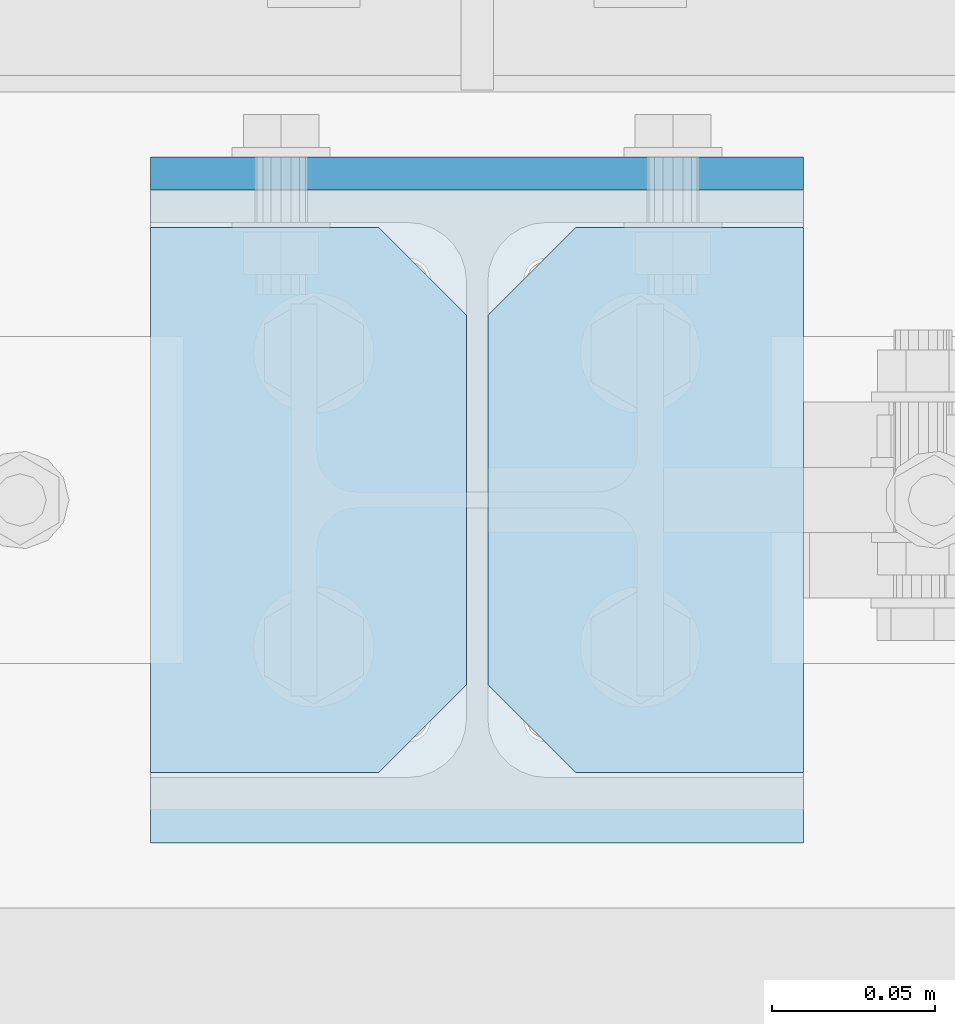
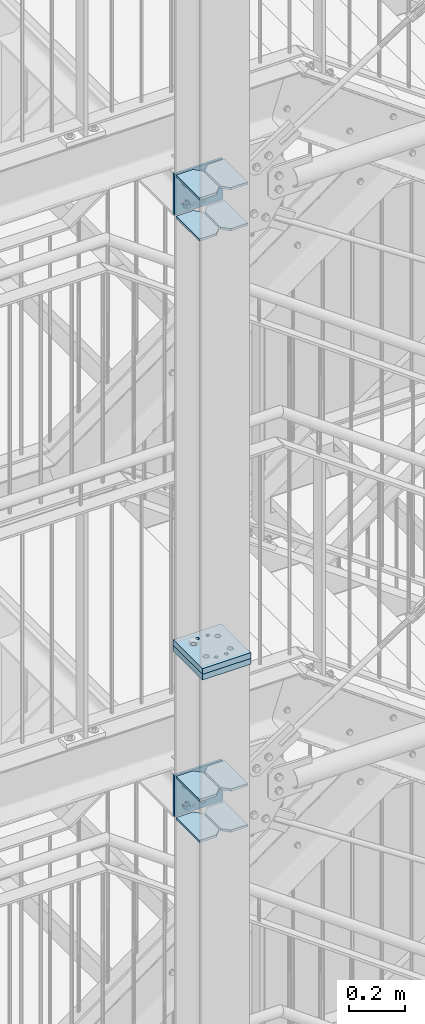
# One storey, part 155 of 831: 12 plates, 48 openings.
"""IFC2X3 building model written with IfcOpenShell, lengths in millimetres."""

import ifcopenshell
import ifcopenshell.guid

model = None  # the IFC model being written
_history = None  # IfcOwnerHistory: only IFC2X3 demands one
_inside = {}  # id of a spatial element -> (the spatial element, [elements in it])
_under = {}  # id of a project, library or spatial element -> (it, [spatial elements below it])
_declared = {}  # id of a project -> (the project, [libraries it declares])
_typed = {}  # id of a type object -> (the type object, [elements of that type])
_made_of = {}  # id of a material, layer set ... -> (it, [elements and type objects made of it])


def new_model(schema):
    """Start an empty IFC model of exactly this schema.

    Asked for "IFC4X3", IfcOpenShell would pick the latest addendum, in which some entities
    have other attributes; the version numbers below select the first issue.
    IFC2X3 requires an IfcOwnerHistory on every rooted entity: one is made here for all.
    """
    global model, _history
    if schema == "IFC4X3":
        model = ifcopenshell.file(schema_version=(4, 3, 0, 0))
    else:
        model = ifcopenshell.file(schema=schema)
    _inside.clear()
    _under.clear()
    _declared.clear()
    _typed.clear()
    _made_of.clear()
    _history = None
    if model.schema == "IFC2X3":
        org = make("IfcOrganization", Name="unknown")
        user = make(
            "IfcPersonAndOrganization",
            ThePerson=make("IfcPerson", FamilyName="unknown"),
            TheOrganization=org,
        )
        app = make(
            "IfcApplication",
            ApplicationDeveloper=org,
            Version="unknown",
            ApplicationFullName="unknown",
            ApplicationIdentifier="unknown",
        )
        _history = make(
            "IfcOwnerHistory",
            OwningUser=user,
            OwningApplication=app,
            ChangeAction="ADDED",
            CreationDate=0,
        )
    return model


def make(cls, **values):
    """One entity of the class cls with the attributes given. An attribute that is None is left unset."""
    return model.create_entity(
        cls, **{name: value for name, value in values.items() if value is not None}
    )


def entity(cls, *values):
    """Any entity or typed value of the class cls, its attributes in the order of the schema. None: left unset."""
    e = model.create_entity(cls)
    for i, value in enumerate(values):
        if value is not None:
            e[i] = value
    return e


def rooted(cls, **values):
    """An entity with a GlobalId (a new one), such as an element, a storey or a relation."""
    return make(cls, GlobalId=ifcopenshell.guid.new(), OwnerHistory=_history, **values)


def si_unit(unit_type, name, prefix=None):
    """IfcSIUnit, for example si_unit("LENGTHUNIT", "METRE", prefix="MILLI")."""
    return make("IfcSIUnit", UnitType=unit_type, Prefix=prefix, Name=name)


def converted_unit(unit_type, name, factor, base, dimensions=None, offset=None):
    """IfcConversionBasedUnit, such as the inch: factor (a typed value) times the base unit."""
    return make(
        "IfcConversionBasedUnit"
        if offset is None
        else "IfcConversionBasedUnitWithOffset",
        ConversionOffset=offset,
        Dimensions=None
        if dimensions is None
        else entity("IfcDimensionalExponents", *dimensions),
        UnitType=unit_type,
        Name=name,
        ConversionFactor=make(
            "IfcMeasureWithUnit", ValueComponent=factor, UnitComponent=base
        ),
    )


def assignment(units):
    """IfcUnitAssignment: the units of a project."""
    return None if units is None else make("IfcUnitAssignment", Units=units)


def point(xyz):
    """IfcCartesianPoint."""
    return None if xyz is None else make("IfcCartesianPoint", Coordinates=xyz)


def direction(xyz):
    """IfcDirection."""
    return None if xyz is None else make("IfcDirection", DirectionRatios=xyz)


def frame(location, z_axis=None, x_axis=None):
    """IfcAxis2Placement3D, a coordinate frame: its origin and axes. An axis left out is left unset."""
    return make(
        "IfcAxis2Placement3D",
        Location=point(location),
        Axis=direction(z_axis),
        RefDirection=direction(x_axis),
    )


def frame_2d(location, x_axis=None):
    """IfcAxis2Placement2D, a coordinate frame in the plane: its origin and x axis."""
    return make(
        "IfcAxis2Placement2D", Location=point(location), RefDirection=direction(x_axis)
    )


def origin():
    """The frame at (0, 0, 0) with its axes left unset."""
    return frame((0.0, 0.0, 0.0))


def origin_with_axes():
    """The frame at (0, 0, 0) with the z axis (0, 0, 1) and the x axis (1, 0, 0) written out."""
    return frame((0.0, 0.0, 0.0), z_axis=(0.0, 0.0, 1.0), x_axis=(1.0, 0.0, 0.0))


def origin_2d_with_axis():
    """The frame at (0, 0) in the plane with the x axis (1, 0) written out."""
    return frame_2d((0.0, 0.0), x_axis=(1.0, 0.0))


def place(relative_to, where):
    """IfcLocalPlacement: puts the frame where relative to a parent placement (None: the world)."""
    return make(
        "IfcLocalPlacement", PlacementRelTo=relative_to, RelativePlacement=where
    )


def context(
    kind, dimensions, precision=None, world=None, true_north=None, identifier=None
):
    """IfcGeometricRepresentationContext, for example the 3D "Model" context."""
    return make(
        "IfcGeometricRepresentationContext",
        ContextIdentifier=identifier,
        ContextType=kind,
        CoordinateSpaceDimension=dimensions,
        Precision=precision,
        WorldCoordinateSystem=world,
        TrueNorth=true_north,
    )


def project(units=None, contexts=None):
    """IfcProject with its units and contexts."""
    return rooted(
        "IfcProject",
        Name="project",
        RepresentationContexts=contexts,
        UnitsInContext=assignment(units),
    )


def spatial(cls, under=None, at=None, **own):
    """A site, building, storey or space (cls), placed at a placement, below another one or the project."""
    s = rooted(cls, ObjectPlacement=at, **own)
    if under is not None:
        _under.setdefault(under.id(), (under, []))[1].append(s)
    return s


def polyline(points):
    """IfcPolyline through the points."""
    return make("IfcPolyline", Points=[point(p) for p in points])


def profile(cls, at=None, kind="AREA", **sizes):
    """A parametric profile (cls). Its sizes go by their IFC names, for example OverallWidth=200.0."""
    return make(cls, ProfileType=kind, Position=at, **sizes)


def circle(**sizes):
    """IfcCircleProfileDef."""
    return profile("IfcCircleProfileDef", **sizes)


def outline(outer, holes=None, kind="AREA"):
    """IfcArbitraryClosedProfileDef: a profile drawn as a closed curve; with holes, ...WithVoids."""
    if holes is None:
        return make("IfcArbitraryClosedProfileDef", ProfileType=kind, OuterCurve=outer)
    return make(
        "IfcArbitraryProfileDefWithVoids",
        ProfileType=kind,
        OuterCurve=outer,
        InnerCurves=holes,
    )


def extrude(swept, where, along, depth):
    """IfcExtrudedAreaSolid: the profile swept, set in the frame where, extruded along a direction by depth."""
    return make(
        "IfcExtrudedAreaSolid",
        SweptArea=swept,
        Position=where,
        ExtrudedDirection=direction(along),
        Depth=depth,
    )


def shape(context_of_items, identifier, shape_type, items):
    """IfcShapeRepresentation: the items that make up one representation, for example the "Body"."""
    return make(
        "IfcShapeRepresentation",
        ContextOfItems=context_of_items,
        RepresentationIdentifier=identifier,
        RepresentationType=shape_type,
        Items=items,
    )


def material(Name=None, Category=None):
    """IfcMaterial."""
    return make("IfcMaterial", Name=Name, Category=Category)


def layer(
    of_material, thickness, ventilated=None, Name=None, Category=None, Priority=None
):
    """IfcMaterialLayer: one layer of a wall or slab, of a material (None: an air gap)."""
    return make(
        "IfcMaterialLayer",
        Material=of_material,
        LayerThickness=thickness,
        IsVentilated=ventilated,
        Name=Name,
        Category=Category,
        Priority=Priority,
    )


def layer_set(layers, Name=None):
    """IfcMaterialLayerSet."""
    return make("IfcMaterialLayerSet", MaterialLayers=layers, LayerSetName=Name)


def made_of(thing, what):
    """Note that an element or type object is made of a material, layer set ...; save() writes the relation."""
    if what is not None:
        _made_of.setdefault(what.id(), (what, []))[1].append(thing)
    return thing


def element(
    cls,
    number,
    at=None,
    inside=None,
    cuts=None,
    type_object=None,
    material=None,
    context=None,
    identifier="Body",
    shape_type=None,
    held_by="IfcProductDefinitionShape",
    body=None,
    shapes=None,
    **own,
):
    """One element of the class cls, such as IfcWall. Its Tag is "e" and its number.

    at: its placement. inside: the storey or other place that contains it. cuts: it is an
    opening in that element (IfcRelVoidsElement). A single representation is given by context,
    identifier, shape_type and body (its items); several are given by shapes. held_by: the class
    of the entity that holds the representations. save() writes the other relations.
    """
    e = rooted(cls, Tag="e%d" % number, ObjectPlacement=at, **own)
    if body is not None:
        shapes = [shape(context, identifier, shape_type, body)]
    if shapes is not None:
        e.Representation = make(held_by, Representations=shapes)
    if inside is not None:
        _inside.setdefault(inside.id(), (inside, []))[1].append(e)
    if cuts is not None:
        rooted(
            "IfcRelVoidsElement", RelatingBuildingElement=cuts, RelatedOpeningElement=e
        )
    if type_object is not None:
        _typed.setdefault(type_object.id(), (type_object, []))[1].append(e)
    return made_of(e, material)


def aggregate(whole, parts):
    """IfcRelAggregates: a whole, such as a stair, and the parts it consists of."""
    return rooted("IfcRelAggregates", RelatingObject=whole, RelatedObjects=parts)


def save(model, path):
    """Write the relations noted so far, then the file.

    IfcRelAggregates (storeys below a building ...), IfcRelContainedInSpatialStructure (elements
    in a storey), IfcRelDefinesByType, IfcRelAssociatesMaterial and IfcRelDeclares: one each for
    every whole, place, type object, material and project.
    """
    for whole, parts in _under.values():
        aggregate(whole, parts)
    for where, things in _inside.values():
        rooted(
            "IfcRelContainedInSpatialStructure",
            RelatedElements=things,
            RelatingStructure=where,
        )
    for kind, things in _typed.values():
        rooted("IfcRelDefinesByType", RelatedObjects=things, RelatingType=kind)
    for what, things in _made_of.values():
        rooted("IfcRelAssociatesMaterial", RelatedObjects=things, RelatingMaterial=what)
    for by, libraries in _declared.values():
        rooted("IfcRelDeclares", RelatingContext=by, RelatedDefinitions=libraries)
    model.write(path)


model = new_model("IFC2X3")

# Units and contexts
model_context = context("Model", 3, precision=1e-09, world=origin_with_axes())
ifc_project = project(units=[si_unit("LENGTHUNIT", "METRE", prefix="MILLI"), si_unit("AREAUNIT", "SQUARE_METRE"), si_unit("VOLUMEUNIT", "CUBIC_METRE"), converted_unit("PLANEANGLEUNIT", "DEGREE", entity("IfcPlaneAngleMeasure", 0.01745329), si_unit("PLANEANGLEUNIT", "RADIAN"), dimensions=[0, 0, 0, 0, 0, 0, 0])], contexts=[model_context])

# Site, building, storey
site_placement = place(None, origin_with_axes())
site = spatial("IfcSite", under=ifc_project, at=site_placement, Name="Site", CompositionType="ELEMENT")
building_placement = place(site_placement, origin_with_axes())
building = spatial("IfcBuilding", under=site, at=building_placement, Name="Struktur 1", CompositionType="ELEMENT")
storey_placement = place(building_placement, origin_with_axes())
storey = spatial("IfcBuildingStorey", under=building, at=storey_placement, Name="Default Storey", CompositionType="ELEMENT", Elevation=0.0)

# Plate, openings
ifc_material = material(Name="S235JR")
ifc_layer_1 = layer(ifc_material, 10.0)
ifc_layer_set_1 = layer_set([ifc_layer_1], Name="S235JR")
plate_1_placement = place(None, frame((4856.713402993, 4471.736971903, 12244.0), z_axis=(0.0, -1.0, 0.0), x_axis=(0.0, 0.0, -1.0)))
plate_1 = element("IfcPlate", 1, at=plate_1_placement, inside=storey, material=ifc_layer_set_1, Name="Endplate", ObjectType="Endplate", context=model_context, shape_type="SweptSolid", body=[
    extrude(outline(polyline([(-90.0, -100.0), (90.0, -100.0), (90.0, 100.0), (-90.0, 100.0), (-90.0, -100.0)])), origin_with_axes(), (0.0, 0.0, 1.0), 10.0),
])
opening_1_placement = place(plate_1_placement, frame((-67.0, -21.25, 10.5), z_axis=(0.0, 0.0, -1.0), x_axis=(1.0, 0.0, 0.0)))
element("IfcOpeningElement", 2, at=opening_1_placement, cuts=plate_1, ObjectType="Opening", context=model_context, shape_type="SweptSolid", body=[
    extrude(circle(Radius=6.001, at=origin_2d_with_axis()), origin(), (0.0, 0.0, 1.0), 11.0),
])
opening_2_placement = place(plate_1_placement, frame((67.0, -21.25, 10.5), z_axis=(0.0, 0.0, -1.0), x_axis=(1.0, 0.0, 0.0)))
element("IfcOpeningElement", 3, at=opening_2_placement, cuts=plate_1, ObjectType="Opening", context=model_context, shape_type="SweptSolid", body=[
    extrude(circle(Radius=6.001, at=origin_2d_with_axis()), origin(), (0.0, 0.0, 1.0), 11.0),
])
opening_3_placement = place(plate_1_placement, frame((67.0, 21.25, 10.5), z_axis=(0.0, 0.0, -1.0), x_axis=(1.0, 0.0, 0.0)))
element("IfcOpeningElement", 4, at=opening_3_placement, cuts=plate_1, ObjectType="Opening", context=model_context, shape_type="SweptSolid", body=[
    extrude(circle(Radius=6.001, at=origin_2d_with_axis()), origin(), (0.0, 0.0, 1.0), 11.0),
])
opening_4_placement = place(plate_1_placement, frame((-67.0, 21.25, 10.5), z_axis=(0.0, 0.0, -1.0), x_axis=(1.0, 0.0, 0.0)))
element("IfcOpeningElement", 5, at=opening_4_placement, cuts=plate_1, ObjectType="Opening", context=model_context, shape_type="SweptSolid", body=[
    extrude(circle(Radius=6.001, at=origin_2d_with_axis()), origin(), (0.0, 0.0, 1.0), 11.0),
])
opening_5_placement = place(plate_1_placement, frame((-45.0, -60.0, 10.5), z_axis=(0.0, 0.0, -1.0), x_axis=(0.0, -1.0, 0.0)))
element("IfcOpeningElement", 6, at=opening_5_placement, cuts=plate_1, ObjectType="Opening", context=model_context, shape_type="SweptSolid", body=[
    extrude(circle(Radius=9.001, at=origin_2d_with_axis()), origin(), (0.0, 0.0, 1.0), 11.0),
])
opening_6_placement = place(plate_1_placement, frame((-45.0, 60.0, 10.5), z_axis=(0.0, 0.0, -1.0), x_axis=(0.0, 1.0, 0.0)))
element("IfcOpeningElement", 7, at=opening_6_placement, cuts=plate_1, ObjectType="Opening", context=model_context, shape_type="SweptSolid", body=[
    extrude(circle(Radius=9.001, at=origin_2d_with_axis()), origin(), (0.0, 0.0, 1.0), 11.0),
])
opening_7_placement = place(plate_1_placement, frame((45.0, 60.0, 10.5), z_axis=(0.0, 0.0, -1.0), x_axis=(0.0, 1.0, 0.0)))
element("IfcOpeningElement", 8, at=opening_7_placement, cuts=plate_1, ObjectType="Opening", context=model_context, shape_type="SweptSolid", body=[
    extrude(circle(Radius=9.001, at=origin_2d_with_axis()), origin(), (0.0, 0.0, 1.0), 11.0),
])
opening_8_placement = place(plate_1_placement, frame((45.0, -60.0, 10.5), z_axis=(0.0, 0.0, -1.0), x_axis=(0.0, -1.0, 0.0)))
element("IfcOpeningElement", 9, at=opening_8_placement, cuts=plate_1, ObjectType="Opening", context=model_context, shape_type="SweptSolid", body=[
    extrude(circle(Radius=9.001, at=origin_2d_with_axis()), origin(), (0.0, 0.0, 1.0), 11.0),
])

plate_2_placement = place(None, frame((4956.713402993, 4450.236971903, 12329.0), z_axis=(0.0, 0.0, 1.0), x_axis=(-1.0, 0.0, 0.0)))
plate_2 = element("IfcPlate", 10, at=plate_2_placement, inside=storey, material=ifc_layer_set_1, Name="Stiffener#1", ObjectType="Stiffener#1", context=model_context, shape_type="SweptSolid", body=[
    extrude(outline(polyline([(0.0, 0.0), (96.75, 0.0), (96.75, 167.0), (0.0, 167.0), (0.0, 0.0)])), origin_with_axes(), (0.0, 0.0, 1.0), 10.0),
])
opening_9_placement = place(plate_2_placement, frame((0.0, 0.0, -0.01), z_axis=(0.0, 0.0, 1.0), x_axis=(1.0, 0.0, 0.0)))
element("IfcOpeningElement", 11, at=opening_9_placement, cuts=plate_2, ObjectType="Opening", context=model_context, shape_type="SweptSolid", body=[
    extrude(outline(polyline([(96.75, 167.0), (69.75, 167.0), (96.75, 140.0), (96.75, 167.0)])), origin(), (0.0, 0.0, 1.0), 10.02),
])
opening_10_placement = place(plate_2_placement, frame((0.0, 0.0, -0.01), z_axis=(0.0, 0.0, 1.0), x_axis=(1.0, 0.0, 0.0)))
element("IfcOpeningElement", 12, at=opening_10_placement, cuts=plate_2, ObjectType="Opening", context=model_context, shape_type="SweptSolid", body=[
    extrude(outline(polyline([(96.75, 0.0), (96.75, 27.0), (69.75, 0.0), (96.75, 0.0)])), origin(), (0.0, 0.0, 1.0), 10.02),
])

plate_3_placement = place(None, frame((4853.463402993, 4450.236971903, 12329.0), z_axis=(0.0, 0.0, 1.0), x_axis=(-1.0, 0.0, 0.0)))
plate_3 = element("IfcPlate", 13, at=plate_3_placement, inside=storey, material=ifc_layer_set_1, Name="Stiffener#2", ObjectType="Stiffener#2", context=model_context, shape_type="SweptSolid", body=[
    extrude(outline(polyline([(0.0, 0.0), (96.75, 0.0), (96.75, 167.0), (0.0, 167.0), (0.0, 0.0)])), origin_with_axes(), (0.0, 0.0, 1.0), 10.0),
])
opening_11_placement = place(plate_3_placement, frame((0.0, 0.0, -0.01), z_axis=(0.0, 0.0, 1.0), x_axis=(1.0, 0.0, 0.0)))
element("IfcOpeningElement", 14, at=opening_11_placement, cuts=plate_3, ObjectType="Opening", context=model_context, shape_type="SweptSolid", body=[
    extrude(outline(polyline([(0.0, 167.0), (0.0, 140.0), (27.0, 167.0), (0.0, 167.0)])), origin(), (0.0, 0.0, 1.0), 10.02),
])
opening_12_placement = place(plate_3_placement, frame((0.0, 0.0, -0.01), z_axis=(0.0, 0.0, 1.0), x_axis=(1.0, 0.0, 0.0)))
element("IfcOpeningElement", 15, at=opening_12_placement, cuts=plate_3, ObjectType="Opening", context=model_context, shape_type="SweptSolid", body=[
    extrude(outline(polyline([(0.0, 0.0), (27.0, 0.0), (0.0, 27.0), (0.0, 0.0)])), origin(), (0.0, 0.0, 1.0), 10.02),
])

plate_4_placement = place(None, frame((4859.963402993, 4450.236971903, 12159.0), z_axis=(0.0, 0.0, -1.0), x_axis=(1.0, 0.0, 0.0)))
plate_4 = element("IfcPlate", 16, at=plate_4_placement, inside=storey, material=ifc_layer_set_1, Name="Stiffener#3", ObjectType="Stiffener#3", context=model_context, shape_type="SweptSolid", body=[
    extrude(outline(polyline([(0.0, 0.0), (96.75, 0.0), (96.75, 167.0), (0.0, 167.0), (0.0, 0.0)])), origin_with_axes(), (0.0, 0.0, 1.0), 10.0),
])
opening_13_placement = place(plate_4_placement, frame((0.0, 0.0, -0.01), z_axis=(0.0, 0.0, 1.0), x_axis=(1.0, 0.0, 0.0)))
element("IfcOpeningElement", 17, at=opening_13_placement, cuts=plate_4, ObjectType="Opening", context=model_context, shape_type="SweptSolid", body=[
    extrude(outline(polyline([(0.0, 167.0), (0.0, 140.0), (27.0, 167.0), (0.0, 167.0)])), origin(), (0.0, 0.0, 1.0), 10.02),
])
opening_14_placement = place(plate_4_placement, frame((0.0, 0.0, -0.01), z_axis=(0.0, 0.0, 1.0), x_axis=(1.0, 0.0, 0.0)))
element("IfcOpeningElement", 18, at=opening_14_placement, cuts=plate_4, ObjectType="Opening", context=model_context, shape_type="SweptSolid", body=[
    extrude(outline(polyline([(0.0, 0.0), (27.0, 0.0), (0.0, 27.0), (0.0, 0.0)])), origin(), (0.0, 0.0, 1.0), 10.02),
])

plate_5_placement = place(None, frame((4756.713402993, 4450.236971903, 12159.0), z_axis=(0.0, 0.0, -1.0), x_axis=(1.0, 0.0, 0.0)))
plate_5 = element("IfcPlate", 19, at=plate_5_placement, inside=storey, material=ifc_layer_set_1, Name="Stiffener#4", ObjectType="Stiffener#4", context=model_context, shape_type="SweptSolid", body=[
    extrude(outline(polyline([(0.0, 0.0), (96.75, 0.0), (96.75, 167.0), (0.0, 167.0), (0.0, 0.0)])), origin_with_axes(), (0.0, 0.0, 1.0), 10.0),
])
opening_15_placement = place(plate_5_placement, frame((0.0, 0.0, -0.01), z_axis=(0.0, 0.0, 1.0), x_axis=(1.0, 0.0, 0.0)))
element("IfcOpeningElement", 20, at=opening_15_placement, cuts=plate_5, ObjectType="Opening", context=model_context, shape_type="SweptSolid", body=[
    extrude(outline(polyline([(96.75, 167.0), (69.75, 167.0), (96.75, 140.0), (96.75, 167.0)])), origin(), (0.0, 0.0, 1.0), 10.02),
])
opening_16_placement = place(plate_5_placement, frame((0.0, 0.0, -0.01), z_axis=(0.0, 0.0, 1.0), x_axis=(1.0, 0.0, 0.0)))
element("IfcOpeningElement", 21, at=opening_16_placement, cuts=plate_5, ObjectType="Opening", context=model_context, shape_type="SweptSolid", body=[
    extrude(outline(polyline([(96.75, 0.0), (96.75, 27.0), (69.75, 0.0), (96.75, 0.0)])), origin(), (0.0, 0.0, 1.0), 10.02),
])

plate_6_placement = place(None, frame((4856.713402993, 4471.736971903, 14879.0), z_axis=(0.0, -1.0, 0.0), x_axis=(0.0, 0.0, -1.0)))
plate_6 = element("IfcPlate", 22, at=plate_6_placement, inside=storey, material=ifc_layer_set_1, Name="Endplate", ObjectType="Endplate", context=model_context, shape_type="SweptSolid", body=[
    extrude(outline(polyline([(-90.0, -100.0), (90.0, -100.0), (90.0, 100.0), (-90.0, 100.0), (-90.0, -100.0)])), origin_with_axes(), (0.0, 0.0, 1.0), 10.0),
])
opening_17_placement = place(plate_6_placement, frame((-67.0, -21.25, 10.5), z_axis=(0.0, 0.0, -1.0), x_axis=(1.0, 0.0, 0.0)))
element("IfcOpeningElement", 23, at=opening_17_placement, cuts=plate_6, ObjectType="Opening", context=model_context, shape_type="SweptSolid", body=[
    extrude(circle(Radius=6.001, at=origin_2d_with_axis()), origin(), (0.0, 0.0, 1.0), 11.0),
])
opening_18_placement = place(plate_6_placement, frame((67.0, -21.25, 10.5), z_axis=(0.0, 0.0, -1.0), x_axis=(1.0, 0.0, 0.0)))
element("IfcOpeningElement", 24, at=opening_18_placement, cuts=plate_6, ObjectType="Opening", context=model_context, shape_type="SweptSolid", body=[
    extrude(circle(Radius=6.001, at=origin_2d_with_axis()), origin(), (0.0, 0.0, 1.0), 11.0),
])
opening_19_placement = place(plate_6_placement, frame((67.0, 21.25, 10.5), z_axis=(0.0, 0.0, -1.0), x_axis=(1.0, 0.0, 0.0)))
element("IfcOpeningElement", 25, at=opening_19_placement, cuts=plate_6, ObjectType="Opening", context=model_context, shape_type="SweptSolid", body=[
    extrude(circle(Radius=6.001, at=origin_2d_with_axis()), origin(), (0.0, 0.0, 1.0), 11.0),
])
opening_20_placement = place(plate_6_placement, frame((-67.0, 21.25, 10.5), z_axis=(0.0, 0.0, -1.0), x_axis=(1.0, 0.0, 0.0)))
element("IfcOpeningElement", 26, at=opening_20_placement, cuts=plate_6, ObjectType="Opening", context=model_context, shape_type="SweptSolid", body=[
    extrude(circle(Radius=6.001, at=origin_2d_with_axis()), origin(), (0.0, 0.0, 1.0), 11.0),
])
opening_21_placement = place(plate_6_placement, frame((-45.0, 60.0, 10.5), z_axis=(0.0, 0.0, -1.0), x_axis=(0.0, 1.0, 0.0)))
element("IfcOpeningElement", 27, at=opening_21_placement, cuts=plate_6, ObjectType="Opening", context=model_context, shape_type="SweptSolid", body=[
    extrude(circle(Radius=9.001, at=origin_2d_with_axis()), origin(), (0.0, 0.0, 1.0), 11.0),
])
opening_22_placement = place(plate_6_placement, frame((45.0, -60.0, 10.5), z_axis=(0.0, 0.0, -1.0), x_axis=(0.0, -1.0, 0.0)))
element("IfcOpeningElement", 28, at=opening_22_placement, cuts=plate_6, ObjectType="Opening", context=model_context, shape_type="SweptSolid", body=[
    extrude(circle(Radius=9.001, at=origin_2d_with_axis()), origin(), (0.0, 0.0, 1.0), 11.0),
])
opening_23_placement = place(plate_6_placement, frame((-45.0, -60.0, 10.5), z_axis=(0.0, 0.0, -1.0), x_axis=(0.0, -1.0, 0.0)))
element("IfcOpeningElement", 29, at=opening_23_placement, cuts=plate_6, ObjectType="Opening", context=model_context, shape_type="SweptSolid", body=[
    extrude(circle(Radius=9.001, at=origin_2d_with_axis()), origin(), (0.0, 0.0, 1.0), 11.0),
])
opening_24_placement = place(plate_6_placement, frame((45.0, 60.0, 10.5), z_axis=(0.0, 0.0, -1.0), x_axis=(0.0, 1.0, 0.0)))
element("IfcOpeningElement", 30, at=opening_24_placement, cuts=plate_6, ObjectType="Opening", context=model_context, shape_type="SweptSolid", body=[
    extrude(circle(Radius=9.001, at=origin_2d_with_axis()), origin(), (0.0, 0.0, 1.0), 11.0),
])

plate_7_placement = place(None, frame((4956.713402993, 4450.236971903, 14964.0), z_axis=(0.0, 0.0, 1.0), x_axis=(-1.0, 0.0, 0.0)))
plate_7 = element("IfcPlate", 31, at=plate_7_placement, inside=storey, material=ifc_layer_set_1, Name="Stiffener#1", ObjectType="Stiffener#1", context=model_context, shape_type="SweptSolid", body=[
    extrude(outline(polyline([(0.0, 0.0), (96.75, 0.0), (96.75, 167.0), (0.0, 167.0), (0.0, 0.0)])), origin_with_axes(), (0.0, 0.0, 1.0), 10.0),
])
opening_25_placement = place(plate_7_placement, frame((0.0, 0.0, -0.01), z_axis=(0.0, 0.0, 1.0), x_axis=(1.0, 0.0, 0.0)))
element("IfcOpeningElement", 32, at=opening_25_placement, cuts=plate_7, ObjectType="Opening", context=model_context, shape_type="SweptSolid", body=[
    extrude(outline(polyline([(96.75, 167.0), (69.75, 167.0), (96.75, 140.0), (96.75, 167.0)])), origin(), (0.0, 0.0, 1.0), 10.02),
])
opening_26_placement = place(plate_7_placement, frame((0.0, 0.0, -0.01), z_axis=(0.0, 0.0, 1.0), x_axis=(1.0, 0.0, 0.0)))
element("IfcOpeningElement", 33, at=opening_26_placement, cuts=plate_7, ObjectType="Opening", context=model_context, shape_type="SweptSolid", body=[
    extrude(outline(polyline([(96.75, 0.0), (96.75, 27.0), (69.75, 0.0), (96.75, 0.0)])), origin(), (0.0, 0.0, 1.0), 10.02),
])

plate_8_placement = place(None, frame((4853.463402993, 4450.236971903, 14964.0), z_axis=(0.0, 0.0, 1.0), x_axis=(-1.0, 0.0, 0.0)))
plate_8 = element("IfcPlate", 34, at=plate_8_placement, inside=storey, material=ifc_layer_set_1, Name="Stiffener#2", ObjectType="Stiffener#2", context=model_context, shape_type="SweptSolid", body=[
    extrude(outline(polyline([(0.0, 0.0), (96.75, 0.0), (96.75, 167.0), (0.0, 167.0), (0.0, 0.0)])), origin_with_axes(), (0.0, 0.0, 1.0), 10.0),
])
opening_27_placement = place(plate_8_placement, frame((0.0, 0.0, -0.01), z_axis=(0.0, 0.0, 1.0), x_axis=(1.0, 0.0, 0.0)))
element("IfcOpeningElement", 35, at=opening_27_placement, cuts=plate_8, ObjectType="Opening", context=model_context, shape_type="SweptSolid", body=[
    extrude(outline(polyline([(0.0, 167.0), (0.0, 140.0), (27.0, 167.0), (0.0, 167.0)])), origin(), (0.0, 0.0, 1.0), 10.02),
])
opening_28_placement = place(plate_8_placement, frame((0.0, 0.0, -0.01), z_axis=(0.0, 0.0, 1.0), x_axis=(1.0, 0.0, 0.0)))
element("IfcOpeningElement", 36, at=opening_28_placement, cuts=plate_8, ObjectType="Opening", context=model_context, shape_type="SweptSolid", body=[
    extrude(outline(polyline([(0.0, 0.0), (27.0, 0.0), (0.0, 27.0), (0.0, 0.0)])), origin(), (0.0, 0.0, 1.0), 10.02),
])

plate_9_placement = place(None, frame((4859.963402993, 4450.236971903, 14794.0), z_axis=(0.0, 0.0, -1.0), x_axis=(1.0, 0.0, 0.0)))
plate_9 = element("IfcPlate", 37, at=plate_9_placement, inside=storey, material=ifc_layer_set_1, Name="Stiffener#3", ObjectType="Stiffener#3", context=model_context, shape_type="SweptSolid", body=[
    extrude(outline(polyline([(0.0, 0.0), (96.75, 0.0), (96.75, 167.0), (0.0, 167.0), (0.0, 0.0)])), origin_with_axes(), (0.0, 0.0, 1.0), 10.0),
])
opening_29_placement = place(plate_9_placement, frame((0.0, 0.0, -0.01), z_axis=(0.0, 0.0, 1.0), x_axis=(1.0, 0.0, 0.0)))
element("IfcOpeningElement", 38, at=opening_29_placement, cuts=plate_9, ObjectType="Opening", context=model_context, shape_type="SweptSolid", body=[
    extrude(outline(polyline([(0.0, 167.0), (0.0, 140.0), (27.0, 167.0), (0.0, 167.0)])), origin(), (0.0, 0.0, 1.0), 10.02),
])
opening_30_placement = place(plate_9_placement, frame((0.0, 0.0, -0.01), z_axis=(0.0, 0.0, 1.0), x_axis=(1.0, 0.0, 0.0)))
element("IfcOpeningElement", 39, at=opening_30_placement, cuts=plate_9, ObjectType="Opening", context=model_context, shape_type="SweptSolid", body=[
    extrude(outline(polyline([(0.0, 0.0), (27.0, 0.0), (0.0, 27.0), (0.0, 0.0)])), origin(), (0.0, 0.0, 1.0), 10.02),
])

plate_10_placement = place(None, frame((4756.713402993, 4450.236971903, 14794.0), z_axis=(0.0, 0.0, -1.0), x_axis=(1.0, 0.0, 0.0)))
plate_10 = element("IfcPlate", 40, at=plate_10_placement, inside=storey, material=ifc_layer_set_1, Name="Stiffener#4", ObjectType="Stiffener#4", context=model_context, shape_type="SweptSolid", body=[
    extrude(outline(polyline([(0.0, 0.0), (96.75, 0.0), (96.75, 167.0), (0.0, 167.0), (0.0, 0.0)])), origin_with_axes(), (0.0, 0.0, 1.0), 10.0),
])
opening_31_placement = place(plate_10_placement, frame((0.0, 0.0, -0.01), z_axis=(0.0, 0.0, 1.0), x_axis=(1.0, 0.0, 0.0)))
element("IfcOpeningElement", 41, at=opening_31_placement, cuts=plate_10, ObjectType="Opening", context=model_context, shape_type="SweptSolid", body=[
    extrude(outline(polyline([(96.75, 167.0), (69.75, 167.0), (96.75, 140.0), (96.75, 167.0)])), origin(), (0.0, 0.0, 1.0), 10.02),
])
opening_32_placement = place(plate_10_placement, frame((0.0, 0.0, -0.01), z_axis=(0.0, 0.0, 1.0), x_axis=(1.0, 0.0, 0.0)))
element("IfcOpeningElement", 42, at=opening_32_placement, cuts=plate_10, ObjectType="Opening", context=model_context, shape_type="SweptSolid", body=[
    extrude(outline(polyline([(96.75, 0.0), (96.75, 27.0), (69.75, 0.0), (96.75, 0.0)])), origin(), (0.0, 0.0, 1.0), 10.02),
])

ifc_layer_2 = layer(ifc_material, 25.0)
ifc_layer_set_2 = layer_set([ifc_layer_2], Name="S235JR")
plate_11_placement = place(None, frame((4856.713402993, 4366.736971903, 12900.0), z_axis=(0.0, 0.0, -1.0), x_axis=(0.0, 1.0, 0.0)))
plate_11 = element("IfcPlate", 43, at=plate_11_placement, inside=storey, material=ifc_layer_set_2, Name="Endplate#1", ObjectType="Endplate#1", context=model_context, shape_type="SweptSolid", body=[
    extrude(outline(polyline([(-105.0, -100.0), (105.0, -100.0), (105.0, 100.0), (-105.0, 100.0), (-105.0, -100.0)])), origin_with_axes(), (0.0, 0.0, 1.0), 25.0),
])
opening_33_placement = place(plate_11_placement, frame((67.0, 21.25, -0.5), z_axis=(0.0, 0.0, 1.0), x_axis=(1.0, 0.0, 0.0)))
element("IfcOpeningElement", 44, at=opening_33_placement, cuts=plate_11, ObjectType="Opening", context=model_context, shape_type="SweptSolid", body=[
    extrude(circle(Radius=7.001, at=origin_2d_with_axis()), origin(), (0.0, 0.0, 1.0), 26.0),
])
opening_34_placement = place(plate_11_placement, frame((-67.0, 21.25, -0.5), z_axis=(0.0, 0.0, 1.0), x_axis=(1.0, 0.0, 0.0)))
element("IfcOpeningElement", 45, at=opening_34_placement, cuts=plate_11, ObjectType="Opening", context=model_context, shape_type="SweptSolid", body=[
    extrude(circle(Radius=7.001, at=origin_2d_with_axis()), origin(), (0.0, 0.0, 1.0), 26.0),
])
opening_35_placement = place(plate_11_placement, frame((-67.0, -21.25, -0.5), z_axis=(0.0, 0.0, 1.0), x_axis=(1.0, 0.0, 0.0)))
element("IfcOpeningElement", 46, at=opening_35_placement, cuts=plate_11, ObjectType="Opening", context=model_context, shape_type="SweptSolid", body=[
    extrude(circle(Radius=7.001, at=origin_2d_with_axis()), origin(), (0.0, 0.0, 1.0), 26.0),
])
opening_36_placement = place(plate_11_placement, frame((67.0, -21.25, -0.5), z_axis=(0.0, 0.0, 1.0), x_axis=(1.0, 0.0, 0.0)))
element("IfcOpeningElement", 47, at=opening_36_placement, cuts=plate_11, ObjectType="Opening", context=model_context, shape_type="SweptSolid", body=[
    extrude(circle(Radius=7.001, at=origin_2d_with_axis()), origin(), (0.0, 0.0, 1.0), 26.0),
])
opening_37_placement = place(plate_11_placement, frame((45.0, -38.999, 25.5), z_axis=(0.0, 0.0, 1.0), x_axis=(1.0, 0.0, 0.0)))
element("IfcOpeningElement", 48, at=opening_37_placement, cuts=plate_11, ObjectType="Opening", context=model_context, shape_type="SweptSolid", body=[
    extrude(circle(Radius=11.001, at=frame_2d((0.0, -11.001), x_axis=(1.0, 0.0))), origin(), (0.0, 0.0, -1.0), 26.0),
])
opening_38_placement = place(plate_11_placement, frame((-45.0, -38.999, 25.5), z_axis=(0.0, 0.0, 1.0), x_axis=(1.0, 0.0, 0.0)))
element("IfcOpeningElement", 49, at=opening_38_placement, cuts=plate_11, ObjectType="Opening", context=model_context, shape_type="SweptSolid", body=[
    extrude(circle(Radius=11.001, at=frame_2d((0.0, -11.001), x_axis=(1.0, 0.0))), origin(), (0.0, 0.0, -1.0), 26.0),
])
opening_39_placement = place(plate_11_placement, frame((45.0, 61.001, 25.5), z_axis=(0.0, 0.0, 1.0), x_axis=(1.0, 0.0, 0.0)))
element("IfcOpeningElement", 50, at=opening_39_placement, cuts=plate_11, ObjectType="Opening", context=model_context, shape_type="SweptSolid", body=[
    extrude(circle(Radius=11.001, at=frame_2d((0.0, -11.001), x_axis=(1.0, 0.0))), origin(), (0.0, 0.0, -1.0), 26.0),
])
opening_40_placement = place(plate_11_placement, frame((-45.0, 61.001, 25.5), z_axis=(0.0, 0.0, 1.0), x_axis=(1.0, 0.0, 0.0)))
element("IfcOpeningElement", 51, at=opening_40_placement, cuts=plate_11, ObjectType="Opening", context=model_context, shape_type="SweptSolid", body=[
    extrude(circle(Radius=11.001, at=frame_2d((0.0, -11.001), x_axis=(1.0, 0.0))), origin(), (0.0, 0.0, -1.0), 26.0),
])

plate_12_placement = place(None, frame((4856.713402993, 4366.736971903, 12925.0), z_axis=(0.0, 0.0, -1.0), x_axis=(0.0, 1.0, 0.0)))
plate_12 = element("IfcPlate", 52, at=plate_12_placement, inside=storey, material=ifc_layer_set_2, Name="Endplate#2", ObjectType="Endplate#2", context=model_context, shape_type="SweptSolid", body=[
    extrude(outline(polyline([(-105.0, -100.0), (105.0, -100.0), (105.0, 100.0), (-105.0, 100.0), (-105.0, -100.0)])), origin_with_axes(), (0.0, 0.0, 1.0), 25.0),
])
opening_41_placement = place(plate_12_placement, frame((67.0, 21.25, 25.5), z_axis=(0.0, 0.0, -1.0), x_axis=(-1.0, 0.0, 0.0)))
element("IfcOpeningElement", 53, at=opening_41_placement, cuts=plate_12, ObjectType="Opening", context=model_context, shape_type="SweptSolid", body=[
    extrude(circle(Radius=7.001, at=origin_2d_with_axis()), origin(), (0.0, 0.0, 1.0), 26.0),
])
opening_42_placement = place(plate_12_placement, frame((-67.0, 21.25, 25.5), z_axis=(0.0, 0.0, -1.0), x_axis=(-1.0, 0.0, 0.0)))
element("IfcOpeningElement", 54, at=opening_42_placement, cuts=plate_12, ObjectType="Opening", context=model_context, shape_type="SweptSolid", body=[
    extrude(circle(Radius=7.001, at=origin_2d_with_axis()), origin(), (0.0, 0.0, 1.0), 26.0),
])
opening_43_placement = place(plate_12_placement, frame((-67.0, -21.25, 25.5), z_axis=(0.0, 0.0, -1.0), x_axis=(-1.0, 0.0, 0.0)))
element("IfcOpeningElement", 55, at=opening_43_placement, cuts=plate_12, ObjectType="Opening", context=model_context, shape_type="SweptSolid", body=[
    extrude(circle(Radius=7.001, at=origin_2d_with_axis()), origin(), (0.0, 0.0, 1.0), 26.0),
])
opening_44_placement = place(plate_12_placement, frame((67.0, -21.25, 25.5), z_axis=(0.0, 0.0, -1.0), x_axis=(-1.0, 0.0, 0.0)))
element("IfcOpeningElement", 56, at=opening_44_placement, cuts=plate_12, ObjectType="Opening", context=model_context, shape_type="SweptSolid", body=[
    extrude(circle(Radius=7.001, at=origin_2d_with_axis()), origin(), (0.0, 0.0, 1.0), 26.0),
])
opening_45_placement = place(plate_12_placement, frame((45.0, -38.999, 25.5), z_axis=(0.0, 0.0, 1.0), x_axis=(1.0, 0.0, 0.0)))
element("IfcOpeningElement", 57, at=opening_45_placement, cuts=plate_12, ObjectType="Opening", context=model_context, shape_type="SweptSolid", body=[
    extrude(circle(Radius=11.001, at=frame_2d((0.0, -11.001), x_axis=(1.0, 0.0))), origin(), (0.0, 0.0, -1.0), 26.0),
])
opening_46_placement = place(plate_12_placement, frame((-45.0, -38.999, 25.5), z_axis=(0.0, 0.0, 1.0), x_axis=(1.0, 0.0, 0.0)))
element("IfcOpeningElement", 58, at=opening_46_placement, cuts=plate_12, ObjectType="Opening", context=model_context, shape_type="SweptSolid", body=[
    extrude(circle(Radius=11.001, at=frame_2d((0.0, -11.001), x_axis=(1.0, 0.0))), origin(), (0.0, 0.0, -1.0), 26.0),
])
opening_47_placement = place(plate_12_placement, frame((45.0, 61.001, 25.5), z_axis=(0.0, 0.0, 1.0), x_axis=(1.0, 0.0, 0.0)))
element("IfcOpeningElement", 59, at=opening_47_placement, cuts=plate_12, ObjectType="Opening", context=model_context, shape_type="SweptSolid", body=[
    extrude(circle(Radius=11.001, at=frame_2d((0.0, -11.001), x_axis=(1.0, 0.0))), origin(), (0.0, 0.0, -1.0), 26.0),
])
opening_48_placement = place(plate_12_placement, frame((-45.0, 61.001, 25.5), z_axis=(0.0, 0.0, 1.0), x_axis=(1.0, 0.0, 0.0)))
element("IfcOpeningElement", 60, at=opening_48_placement, cuts=plate_12, ObjectType="Opening", context=model_context, shape_type="SweptSolid", body=[
    extrude(circle(Radius=11.001, at=frame_2d((0.0, -11.001), x_axis=(1.0, 0.0))), origin(), (0.0, 0.0, -1.0), 26.0),
])

save(model, "model.ifc")
